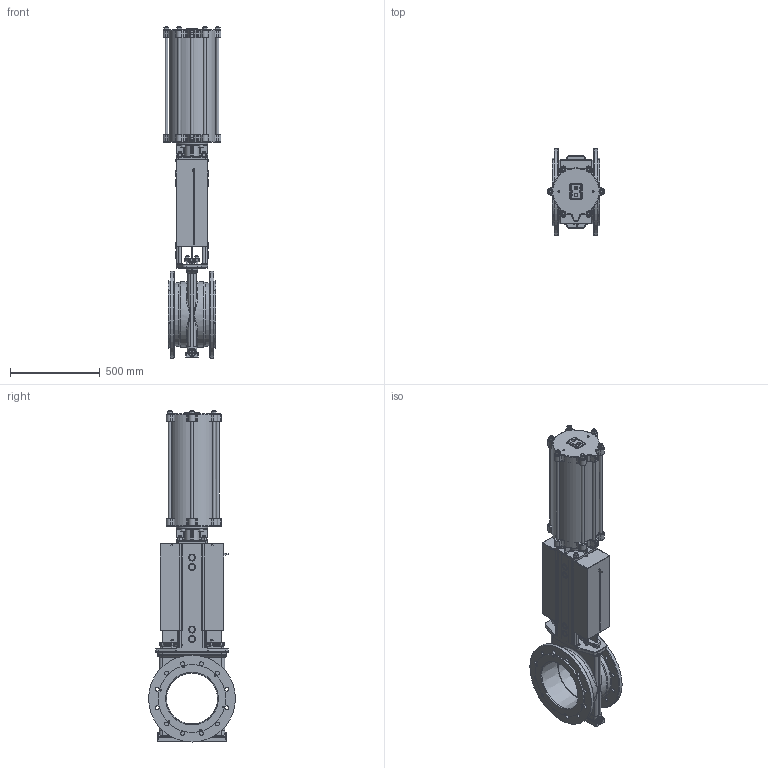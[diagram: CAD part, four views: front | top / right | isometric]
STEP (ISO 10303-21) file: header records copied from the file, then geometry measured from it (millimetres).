
FILE_DESCRIPTION(/* description */ (''),/* implementation_level */ '2;1');
FILE_NAME(/* name */ 'F:\Emir\3D-block special\SLV\SLF-DN300-PN10-FRSC250-400+LDR_Shrinkwrap_1.stp',/* time_stamp */ '2018-10-15T14:46:07+02:00',/* author */ ('emimus'),/* organization */ (''),/* preprocessor_version */ 'ST-DEVELOPER v17.2',/* originating_system */ 'Autodesk Inventor 2019',/* authorisation */ '');
FILE_SCHEMA (('CONFIG_CONTROL_DESIGN'));
Products named in the file (1): SLF-DN300-PN10-FRSC250-400+LDR_Shrinkwrap_1
Bounding box: 322 x 483 x 1844.5 mm (x, y, z)
Volume: 31356624.2 mm3; surface area: 6127201.9 mm2
Topology: 1 solids, 1 shells, 2526 faces, 6405 edges, 4011 vertices
Faces by surface type: plane 932, cylinder 780, torus 315, bspline 215, cone 168, sphere 116
Full cylindrical faces by diameter (mm): 3.5 x8, 3.6 x10, 4 x2, 4.917 x8, 6.4 x1, 6.647 x4, 7 x1, 7.5 x4, 8.376 x14, 9.5 x2, 10 x12, 10.106 x2, 11 x12, 12 x9, 12.5 x6, 13 x10, 14 x7, 15 x4, 16 x24, 17 x10, 17.5 x6, 18 x2, 18.2 x4, 18.5 x2, 18.631 x2, 22 x24, 24 x16, 24.117 x2, 25 x4, 25.5 x1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
Entity records: 86232 total; most frequent: CARTESIAN_POINT 24841, DIRECTION 13465, ORIENTED_EDGE 12710, EDGE_CURVE 6355, AXIS2_PLACEMENT_3D 5531, VERTEX_POINT 4011, CIRCLE 3123, EDGE_LOOP 2902
